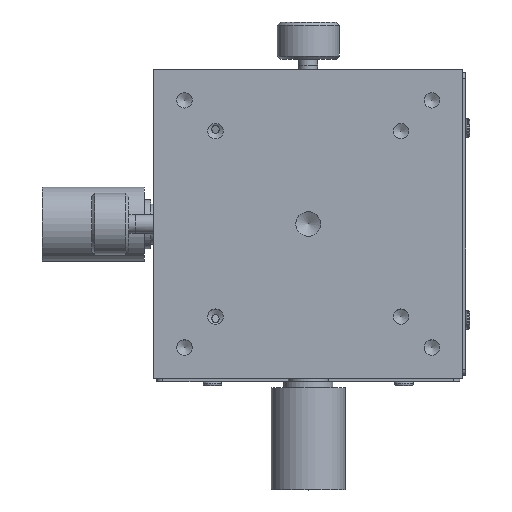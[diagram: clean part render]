
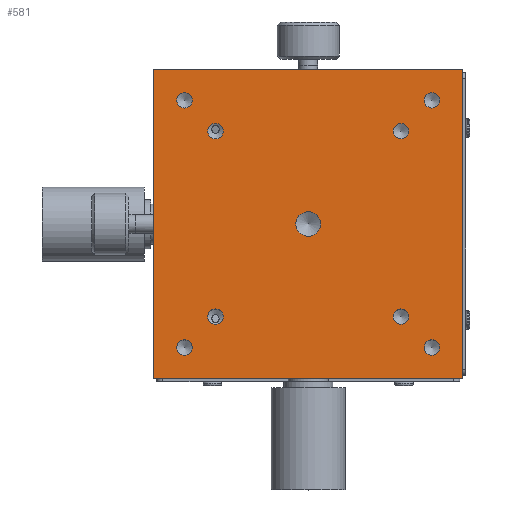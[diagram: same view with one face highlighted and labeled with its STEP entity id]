
A CAD part, top view. The second image highlights one B-rep face of the part: STEP entity #581.
In plain terms, the highlighted planar face has unit normal (0, 0, 1).
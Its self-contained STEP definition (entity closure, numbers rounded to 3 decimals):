
#581 = ADVANCED_FACE( '', ( #1353, #1354, #1355, #1356, #1357, #1358, #1359, #1360, #1361, #1362 ), #1363, .T. );
#1353 = FACE_BOUND( '', #2275, .T. );
#1354 = FACE_BOUND( '', #2276, .T. );
#1355 = FACE_BOUND( '', #2277, .T. );
#1356 = FACE_BOUND( '', #2278, .T. );
#1357 = FACE_BOUND( '', #2279, .T. );
#1358 = FACE_BOUND( '', #2280, .T. );
#1359 = FACE_BOUND( '', #2281, .T. );
#1360 = FACE_BOUND( '', #2282, .T. );
#1361 = FACE_BOUND( '', #2283, .T. );
#1362 = FACE_OUTER_BOUND( '', #2284, .T. );
#1363 = PLANE( '', #2285 );
#2275 = EDGE_LOOP( '', ( #4372 ) );
#2276 = EDGE_LOOP( '', ( #4373 ) );
#2277 = EDGE_LOOP( '', ( #4374 ) );
#2278 = EDGE_LOOP( '', ( #4375 ) );
#2279 = EDGE_LOOP( '', ( #4376 ) );
#2280 = EDGE_LOOP( '', ( #4377 ) );
#2281 = EDGE_LOOP( '', ( #4378 ) );
#2282 = EDGE_LOOP( '', ( #4379 ) );
#2283 = EDGE_LOOP( '', ( #4380 ) );
#2284 = EDGE_LOOP( '', ( #4381, #4382, #4383, #4384 ) );
#2285 = AXIS2_PLACEMENT_3D( '', #4385, #4386, #4387 );
#4372 = ORIENTED_EDGE( '', *, *, #5408, .T. );
#4373 = ORIENTED_EDGE( '', *, *, #5409, .T. );
#4374 = ORIENTED_EDGE( '', *, *, #5410, .T. );
#4375 = ORIENTED_EDGE( '', *, *, #5411, .T. );
#4376 = ORIENTED_EDGE( '', *, *, #5412, .T. );
#4377 = ORIENTED_EDGE( '', *, *, #5413, .T. );
#4378 = ORIENTED_EDGE( '', *, *, #5414, .T. );
#4379 = ORIENTED_EDGE( '', *, *, #5415, .T. );
#4380 = ORIENTED_EDGE( '', *, *, #5416, .T. );
#4381 = ORIENTED_EDGE( '', *, *, #5417, .F. );
#4382 = ORIENTED_EDGE( '', *, *, #5418, .F. );
#4383 = ORIENTED_EDGE( '', *, *, #5406, .F. );
#4384 = ORIENTED_EDGE( '', *, *, #5419, .F. );
#4385 = CARTESIAN_POINT( '', ( 0., 0., 36. ) );
#4386 = DIRECTION( '', ( 0., 0., 1. ) );
#4387 = DIRECTION( '', ( 0., 1., 0. ) );
#5406 = EDGE_CURVE( '', #6455, #6451, #6457, .T. );
#5408 = EDGE_CURVE( '', #6460, #6460, #6461, .T. );
#5409 = EDGE_CURVE( '', #6462, #6462, #6463, .T. );
#5410 = EDGE_CURVE( '', #6464, #6464, #6465, .T. );
#5411 = EDGE_CURVE( '', #6466, #6466, #6467, .T. );
#5412 = EDGE_CURVE( '', #6468, #6468, #6469, .T. );
#5413 = EDGE_CURVE( '', #6470, #6470, #6471, .T. );
#5414 = EDGE_CURVE( '', #6472, #6472, #6473, .T. );
#5415 = EDGE_CURVE( '', #6474, #6474, #6475, .T. );
#5416 = EDGE_CURVE( '', #6476, #6476, #6477, .T. );
#5417 = EDGE_CURVE( '', #6478, #6479, #6480, .T. );
#5418 = EDGE_CURVE( '', #6451, #6478, #6481, .T. );
#5419 = EDGE_CURVE( '', #6479, #6455, #6482, .T. );
#6451 = VERTEX_POINT( '', #8587 );
#6455 = VERTEX_POINT( '', #8592 );
#6457 = LINE( '', #8595, #8596 );
#6460 = VERTEX_POINT( '', #8599 );
#6461 = CIRCLE( '', #8600, 2. );
#6462 = VERTEX_POINT( '', #8601 );
#6463 = CIRCLE( '', #8602, 1.25 );
#6464 = VERTEX_POINT( '', #8603 );
#6465 = CIRCLE( '', #8604, 1.25 );
#6466 = VERTEX_POINT( '', #8605 );
#6467 = CIRCLE( '', #8606, 1.25 );
#6468 = VERTEX_POINT( '', #8607 );
#6469 = CIRCLE( '', #8608, 1.25 );
#6470 = VERTEX_POINT( '', #8609 );
#6471 = CIRCLE( '', #8610, 1.25 );
#6472 = VERTEX_POINT( '', #8611 );
#6473 = CIRCLE( '', #8612, 1.25 );
#6474 = VERTEX_POINT( '', #8613 );
#6475 = CIRCLE( '', #8614, 1.25 );
#6476 = VERTEX_POINT( '', #8615 );
#6477 = CIRCLE( '', #8616, 1.25 );
#6478 = VERTEX_POINT( '', #8617 );
#6479 = VERTEX_POINT( '', #8618 );
#6480 = LINE( '', #8619, #8620 );
#6481 = LINE( '', #8621, #8622 );
#6482 = LINE( '', #8623, #8624 );
#8587 = CARTESIAN_POINT( '', ( -25., 25., 36. ) );
#8592 = CARTESIAN_POINT( '', ( -25., -25., 36. ) );
#8595 = CARTESIAN_POINT( '', ( -25., 0., 36. ) );
#8596 = VECTOR( '', #9843, 1000. );
#8599 = CARTESIAN_POINT( '', ( 0., 2., 36. ) );
#8600 = AXIS2_PLACEMENT_3D( '', #9847, #9848, #9849 );
#8601 = CARTESIAN_POINT( '', ( 15., -13.75, 36. ) );
#8602 = AXIS2_PLACEMENT_3D( '', #9850, #9851, #9852 );
#8603 = CARTESIAN_POINT( '', ( -15., -13.75, 36. ) );
#8604 = AXIS2_PLACEMENT_3D( '', #9853, #9854, #9855 );
#8605 = CARTESIAN_POINT( '', ( -15., 16.25, 36. ) );
#8606 = AXIS2_PLACEMENT_3D( '', #9856, #9857, #9858 );
#8607 = CARTESIAN_POINT( '', ( 15., 16.25, 36. ) );
#8608 = AXIS2_PLACEMENT_3D( '', #9859, #9860, #9861 );
#8609 = CARTESIAN_POINT( '', ( 20., -18.75, 36. ) );
#8610 = AXIS2_PLACEMENT_3D( '', #9862, #9863, #9864 );
#8611 = CARTESIAN_POINT( '', ( -20., -18.75, 36. ) );
#8612 = AXIS2_PLACEMENT_3D( '', #9865, #9866, #9867 );
#8613 = CARTESIAN_POINT( '', ( -20., 21.25, 36. ) );
#8614 = AXIS2_PLACEMENT_3D( '', #9868, #9869, #9870 );
#8615 = CARTESIAN_POINT( '', ( 20., 21.25, 36. ) );
#8616 = AXIS2_PLACEMENT_3D( '', #9871, #9872, #9873 );
#8617 = CARTESIAN_POINT( '', ( 25., 25., 36. ) );
#8618 = CARTESIAN_POINT( '', ( 25., -25., 36. ) );
#8619 = CARTESIAN_POINT( '', ( 25., 0., 36. ) );
#8620 = VECTOR( '', #9874, 1000. );
#8621 = CARTESIAN_POINT( '', ( 0., 25., 36. ) );
#8622 = VECTOR( '', #9875, 1000. );
#8623 = CARTESIAN_POINT( '', ( 0., -25., 36. ) );
#8624 = VECTOR( '', #9876, 1000. );
#9843 = DIRECTION( '', ( 0., 1., 0. ) );
#9847 = CARTESIAN_POINT( '', ( 0., 0., 36. ) );
#9848 = DIRECTION( '', ( 0., 0., -1. ) );
#9849 = DIRECTION( '', ( 0., 1., 0. ) );
#9850 = CARTESIAN_POINT( '', ( 15., -15., 36. ) );
#9851 = DIRECTION( '', ( 0., 0., -1. ) );
#9852 = DIRECTION( '', ( 0., 1., 0. ) );
#9853 = CARTESIAN_POINT( '', ( -15., -15., 36. ) );
#9854 = DIRECTION( '', ( 0., 0., -1. ) );
#9855 = DIRECTION( '', ( 0., 1., 0. ) );
#9856 = CARTESIAN_POINT( '', ( -15., 15., 36. ) );
#9857 = DIRECTION( '', ( 0., 0., -1. ) );
#9858 = DIRECTION( '', ( 0., 1., 0. ) );
#9859 = CARTESIAN_POINT( '', ( 15., 15., 36. ) );
#9860 = DIRECTION( '', ( 0., 0., -1. ) );
#9861 = DIRECTION( '', ( 0., 1., 0. ) );
#9862 = CARTESIAN_POINT( '', ( 20., -20., 36. ) );
#9863 = DIRECTION( '', ( 0., 0., -1. ) );
#9864 = DIRECTION( '', ( 0., 1., 0. ) );
#9865 = CARTESIAN_POINT( '', ( -20., -20., 36. ) );
#9866 = DIRECTION( '', ( 0., 0., -1. ) );
#9867 = DIRECTION( '', ( 0., 1., 0. ) );
#9868 = CARTESIAN_POINT( '', ( -20., 20., 36. ) );
#9869 = DIRECTION( '', ( 0., 0., -1. ) );
#9870 = DIRECTION( '', ( 0., 1., 0. ) );
#9871 = CARTESIAN_POINT( '', ( 20., 20., 36. ) );
#9872 = DIRECTION( '', ( 0., 0., -1. ) );
#9873 = DIRECTION( '', ( 0., 1., 0. ) );
#9874 = DIRECTION( '', ( 0., -1., 0. ) );
#9875 = DIRECTION( '', ( 1., 0., 0. ) );
#9876 = DIRECTION( '', ( -1., 0., 0. ) );
